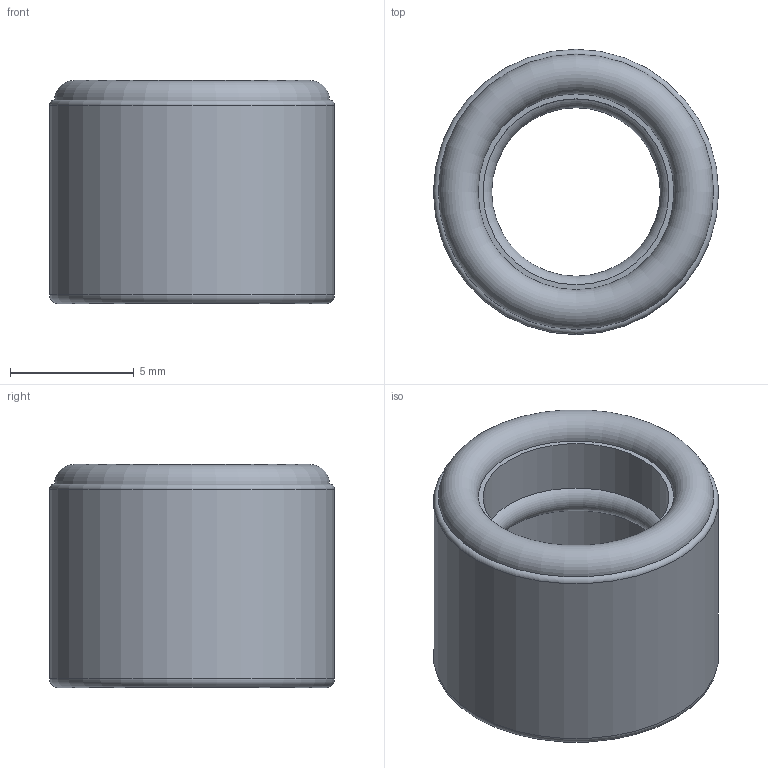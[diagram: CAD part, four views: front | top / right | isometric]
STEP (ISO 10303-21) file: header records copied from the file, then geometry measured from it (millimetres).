
FILE_DESCRIPTION(('FreeCAD Model'),'2;1');
FILE_NAME('Open CASCADE Shape Model','2026-09-29T21:58:29',('Author'),( ''),'Open CASCADE STEP processor 7.8','FreeCAD','Unknown');
FILE_SCHEMA(('AUTOMOTIVE_DESIGN { 1 0 10303 214 1 1 1 1 }'));
Length unit declared in the file: millimetre
Products named in the file (1): cable_seal_ID6p8_OD11p5_L9mm_profiled
Bounding box: 11.5 x 11.5 x 9 mm (x, y, z)
Volume: 530.7 mm3; surface area: 636.7 mm2
Topology: 1 solids, 1 shells, 11 faces, 20 edges, 11 vertices
Faces by surface type: torus 5, cylinder 4, plane 2
Full cylindrical faces by diameter (mm): 7.5 x3, 11.5 x1
Entity records: 288 total; most frequent: DIRECTION 60, CARTESIAN_POINT 43, ORIENTED_EDGE 40, AXIS2_PLACEMENT_3D 28, EDGE_CURVE 20, CIRCLE 16, FACE_BOUND 13, EDGE_LOOP 13
